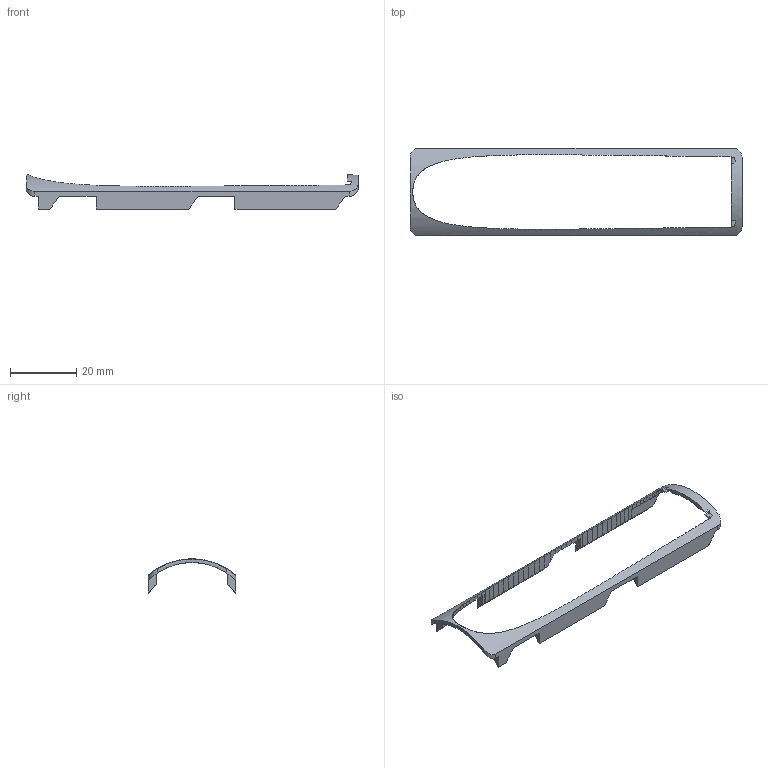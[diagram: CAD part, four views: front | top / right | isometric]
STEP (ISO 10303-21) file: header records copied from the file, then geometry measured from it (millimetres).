
FILE_DESCRIPTION(('SkyG Speed 90B - revision C6B-11 - 2026-10-11','WF-wing-window-filler'),'2;1');
FILE_NAME('WF-wing-window-filler_C6B-11','2026-10-11T13:31:17',('Author'),( 'Open CASCADE'),'Open CASCADE STEP processor 7.9','Open CASCADE 7.9' ,'Unknown');
FILE_SCHEMA(('AUTOMOTIVE_DESIGN { 1 0 10303 214 1 1 1 1 }'));
Length unit declared in the file: millimetre
Products named in the file (1): WF-wing-window-filler C6B-11
Bounding box: 100.4 x 26.4 x 10.35 mm (x, y, z)
Volume: 1861.6 mm3; surface area: 3237.4 mm2
Topology: 1 solids, 1 shells, 168 faces, 500 edges, 333 vertices
Faces by surface type: plane 135, cylinder 15, bspline 12, cone 6
Entity records: 26730 total; most frequent: CARTESIAN_POINT 17384, DIRECTION 1642, ORIENTED_EDGE 1000, PCURVE 1000, DEFINITIONAL_REPRESENTATION 1000, EDGE_CURVE 500, SURFACE_CURVE 500, ELLIPSE 488
